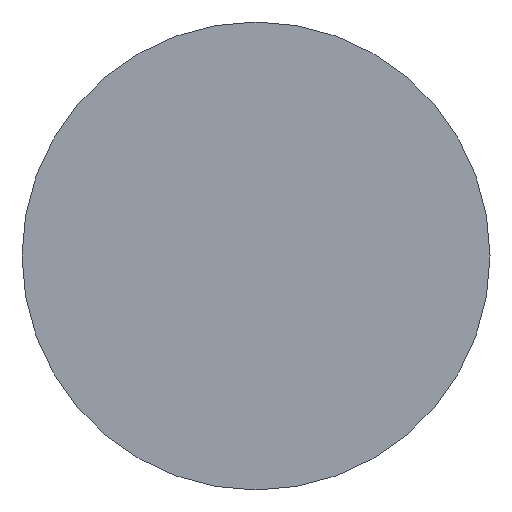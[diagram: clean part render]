
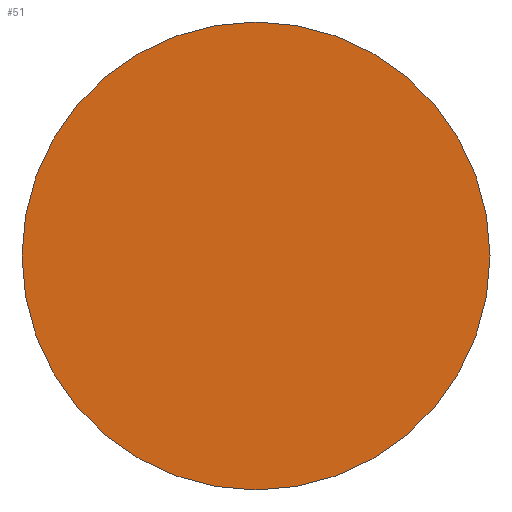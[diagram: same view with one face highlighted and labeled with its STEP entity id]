
A CAD part, top view. The second image highlights one B-rep face of the part: STEP entity #51.
In plain terms, the highlighted planar face has unit normal (0, 0, 1).
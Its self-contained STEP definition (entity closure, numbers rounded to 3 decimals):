
#51=ADVANCED_FACE('',(#106),#107,.F.);
#106=FACE_OUTER_BOUND('',#156,.T.);
#107=PLANE('',#157);
#156=EDGE_LOOP('',(#228));
#157=AXIS2_PLACEMENT_3D('',#229,#230,#231);
#228=ORIENTED_EDGE('',*,*,#259,.F.);
#229=CARTESIAN_POINT('',(0.0,0.0,0.0));
#230=DIRECTION('',(-0.0,0.,-1.0));
#231=DIRECTION('',(0.0,1.0,0.));
#259=EDGE_CURVE('',#288,#288,#289,.T.);
#288=VERTEX_POINT('',#319);
#289=CIRCLE('',#320,26.);
#319=CARTESIAN_POINT('',(0.0,26.,0.));
#320=AXIS2_PLACEMENT_3D('',#350,#351,#352);
#350=CARTESIAN_POINT('',(0.0,0.0,0.0));
#351=DIRECTION('',(-0.0,0.,-1.0));
#352=DIRECTION('',(0.0,1.0,0.));
